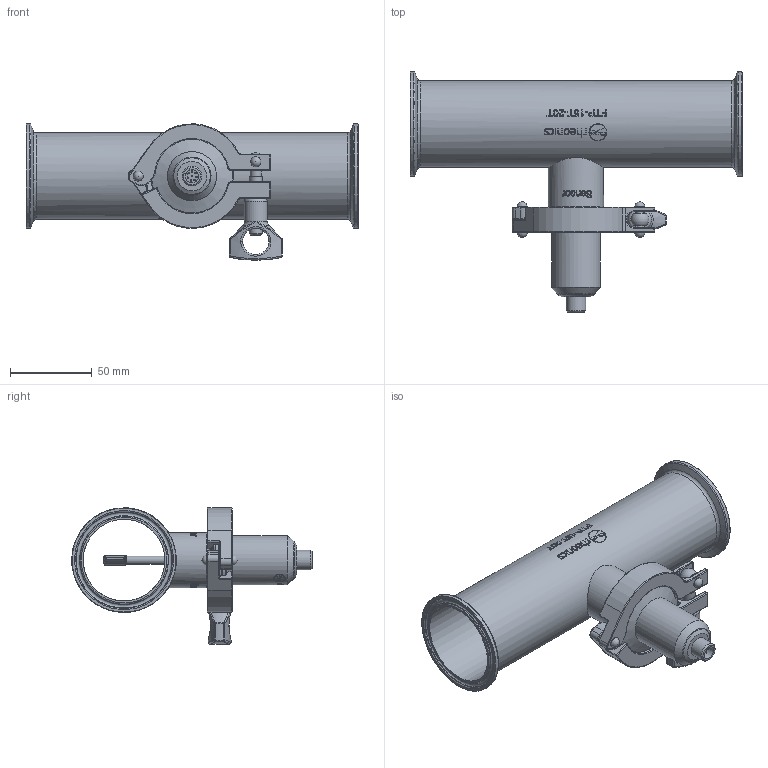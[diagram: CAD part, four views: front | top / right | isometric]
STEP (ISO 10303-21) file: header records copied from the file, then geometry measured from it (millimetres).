
FILE_DESCRIPTION(/* description */ ('Unknown'),/* implementation_level */ '2;1');
FILE_NAME(/* name */ 'Rheonics_SRD-HD-X3-15T_FTP-15T-20T',/* time_stamp */ '2025-02-06T15:47:01-05:00',/* author */ ('Unknown'),/* organization */ ('Unknown'),/* preprocessor_version */ 'ST-DEVELOPER v16.7',/* originating_system */ 'Solid Edge',/* authorisation */ 'Unknown');
FILE_SCHEMA (('AUTOMOTIVE_DESIGN {1 0 10303 214 3 1 1}'));
Length unit declared in the file: millimetre
Products named in the file (5): SRD-X3-15T_FTP-15T-20T; FTP-15T-20T; TC-15T-Clamp; TC-15T-Seal; SRD-HD-X3-15T
Assembly tree (4 placements, depth 2):
  SRD-X3-15T_FTP-15T-20T
    FTP-15T-20T
    TC-15T-Clamp
    TC-15T-Seal
    SRD-HD-X3-15T
Bounding box: 203 x 147.01 x 83.35 mm (x, y, z)
Volume: 139504.8 mm3; surface area: 107333.8 mm2
Topology: 4 solids, 4 shells, 1034 faces, 2545 edges, 1590 vertices
Faces by surface type: bspline 407, plane 267, cylinder 223, torus 79, cone 33, sphere 25
Full cylindrical faces by diameter (mm): 0.8 x8, 4 x3, 5.019 x1, 6.2 x4, 6.8 x1, 8 x3, 12 x1, 13.9 x1, 14 x1, 16 x1, 29.7 x1, 30 x1, 33.7 x1, 35 x1, 38.2 x1, 50 x1, 50.5 x3, 53 x1, 64 x2
Entity records: 75963 total; most frequent: CARTESIAN_POINT 49809, ORIENTED_EDGE 4720, DIRECTION 3377, EDGE_CURVE 2360, VERTEX_POINT 1552, AXIS2_PLACEMENT_3D 1278, EDGE_LOOP 1266, FACE_BOUND 1266
